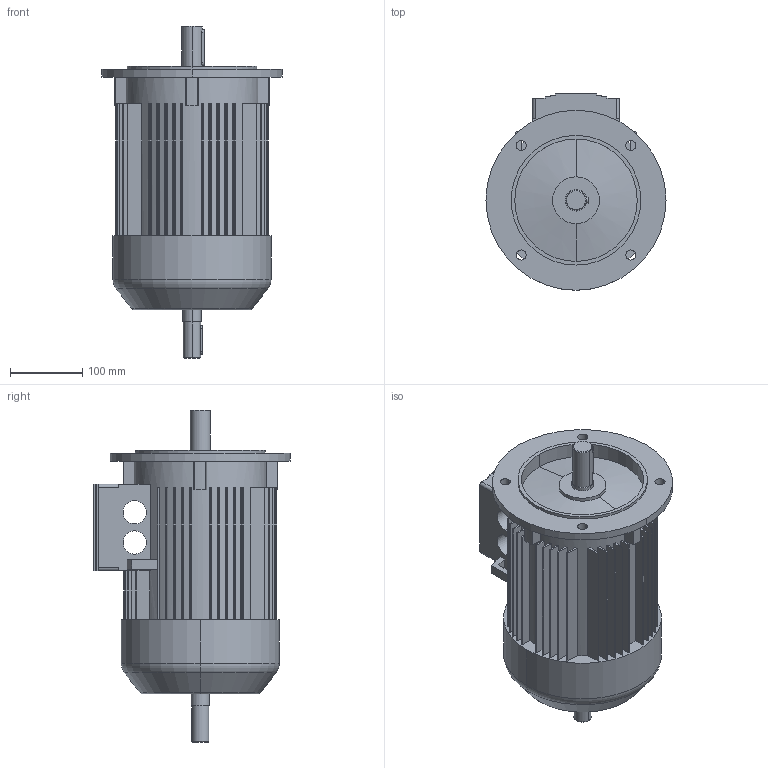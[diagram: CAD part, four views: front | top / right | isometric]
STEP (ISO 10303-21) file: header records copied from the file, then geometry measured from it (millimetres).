
FILE_DESCRIPTION((''),'2;1');
FILE_NAME('1LA7113-2AA11-Z-K16_PRT','2002-04-12T',('martin könig'),(''),'PRO/ENGINEER BY PARAMETRIC TECHNOLOGY CORPORATION, 2002030','PRO/ENGINEER BY PARAMETRIC TECHNOLOGY CORPORATION, 2002030','');
FILE_SCHEMA(('CONFIG_CONTROL_DESIGN'));
Length unit declared in the file: millimetre
Products named in the file (1): 1LA7113-2AA11-Z-K16_PRT
Bounding box: 250 x 273 x 461 mm (x, y, z)
Volume: 10722295.3 mm3; surface area: 586780.6 mm2
Topology: 1 solids, 1 shells, 274 faces, 772 edges, 510 vertices
Faces by surface type: plane 170, cylinder 92, cone 8, torus 4
Entity records: 9044 total; most frequent: CARTESIAN_POINT 1630, DIRECTION 1580, ORIENTED_EDGE 1544, EDGE_CURVE 772, AXIS2_PLACEMENT_3D 538, VERTEX_POINT 510, VECTOR 504, LINE 504
